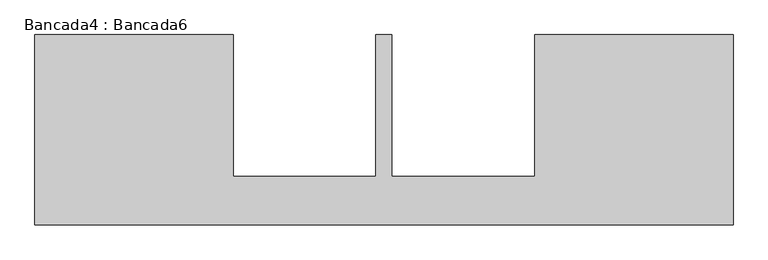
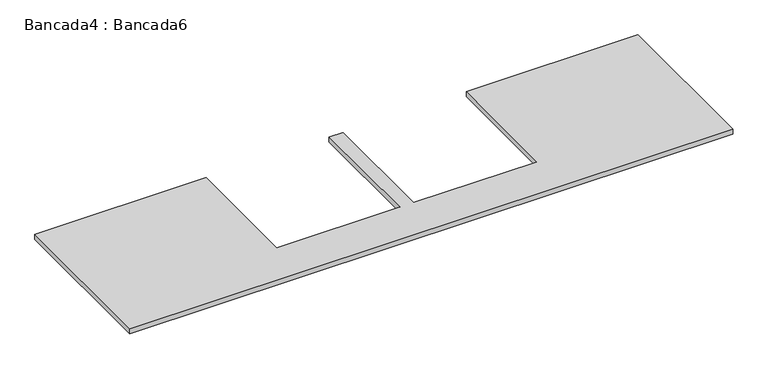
"""IFC4 building model written with IfcOpenShell, lengths in millimetres: furniture geometry, Bancada4 : Bancada6."""

from ifc_helpers import new_model, si_unit, frame, origin, place, context, project, spatial, polyline, outline, extrude, source, transform, mapped, element, save


def bancada4_bancada6_8fe99fff(model_context):
    return source(origin(), model_context, "Body", "SweptSolid", [
        extrude(outline(polyline([(532.6165906, -4217.0637549), (-1667.3834094, -4217.0637549), (-1667.3834094, -3617.0637549), (-1043.0173928, -3617.0637549), (-1043.0173928, -4064.1387549), (-593.0173928, -4064.1387549), (-593.0173928, -3617.0637549), (-543.0173928, -3617.0637549), (-543.0173928, -4064.1387549), (-93.0173928, -4064.1387549), (-93.0173928, -3617.0637549), (532.6165906, -3617.0637549), (532.6165906, -4217.0637549)])), frame((0.0, 0.0, 900.0), z_axis=(0.0, 0.0, 1.0), x_axis=(1.0, 0.0, 0.0)), (0.0, 0.0, 1.0), 20.0),
    ])


if __name__ == "__main__":
    model = new_model("IFC4")
    model_context = context("Model", 3, world=origin())
    ifc_project = project(units=[si_unit("LENGTHUNIT", "METRE", prefix="MILLI")], contexts=[model_context])
    site = spatial("IfcSite", under=ifc_project)
    building = spatial("IfcBuilding", under=site)
    placement = place(None, origin())
    bancada4_bancada6_shape = bancada4_bancada6_8fe99fff(model_context)
    element("IfcFurniture", 1, ObjectType="Bancada4 : Bancada6", at=placement, inside=building, context=model_context, shape_type="MappedRepresentation", body=[
        mapped(bancada4_bancada6_shape, transform((0.0, 0.0, 0.0), x_axis=(1.0, 0.0, 0.0), y_axis=(0.0, 1.0, 0.0), z_axis=(0.0, 0.0, 1.0))),
    ])
    save(model, "model.ifc")
